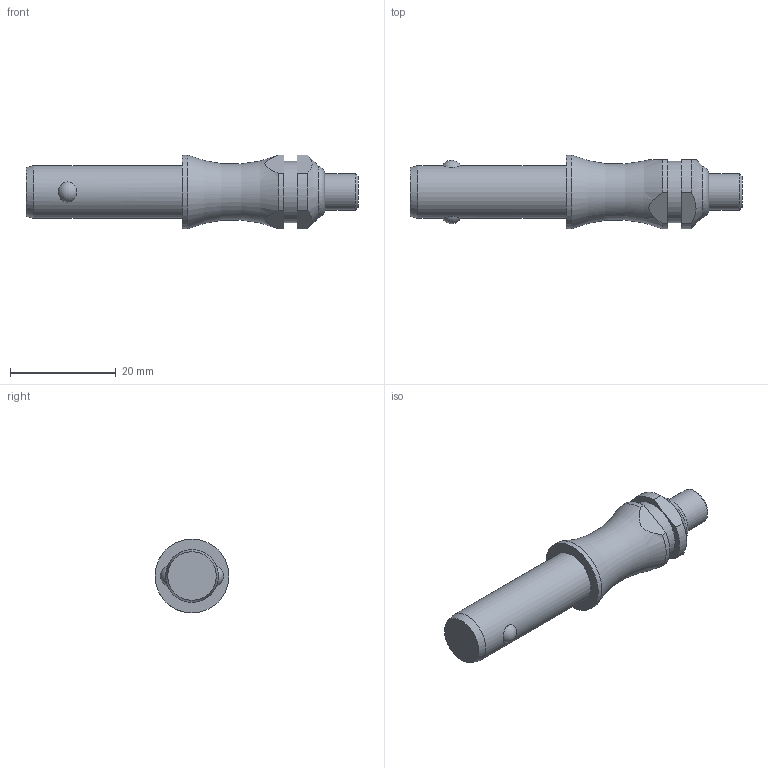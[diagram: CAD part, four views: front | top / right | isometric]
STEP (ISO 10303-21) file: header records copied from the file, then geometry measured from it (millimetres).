
FILE_DESCRIPTION( ( 'STEP AP203' ), '1' );
FILE_NAME( 'C:/Temp/Ganter_Step_05_03_2020/data/3_1/gn113_3/Stainless Steel-Ball lock pin GN 113.3-10-20 (deactivated).stp', '2020-03-12T08:18:30', ( 'License CC BY-ND 4.0' ), ( 'CADENAS' ), ' ', 'PARTsolutions', ' ' );
FILE_SCHEMA( ( 'CONFIG_CONTROL_DESIGN' ) );
Length unit declared in the file: millimetre
Products named in the file (1): _Stainless Steel-Ball lock pin GN 113.3-10-20 (deactivated)
Bounding box: 62.9 x 14 x 14 mm (x, y, z)
Volume: 5550.2 mm3; surface area: 2388.9 mm2
Topology: 1 solids, 1 shells, 28 faces, 60 edges, 39 vertices
Faces by surface type: plane 11, cylinder 10, cone 3, torus 2, sphere 2
Full cylindrical faces by diameter (mm): 7 x1, 10 x1, 11.6 x1, 14 x1
Entity records: 940 total; most frequent: CARTESIAN_POINT 327, DIRECTION 122, ORIENTED_EDGE 98, AXIS2_PLACEMENT_3D 52, EDGE_CURVE 49, EDGE_LOOP 42, VERTEX_POINT 37, FACE_OUTER_BOUND 34
